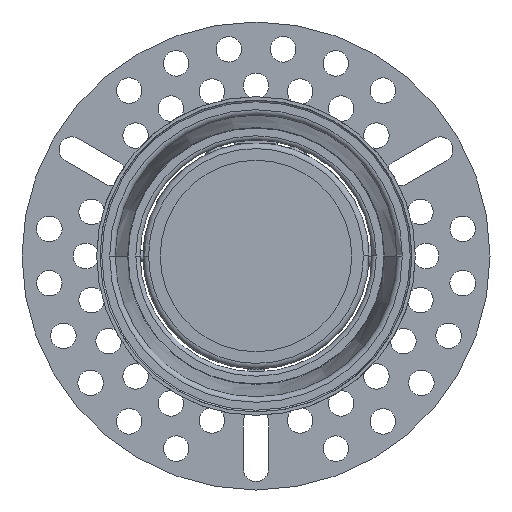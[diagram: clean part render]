
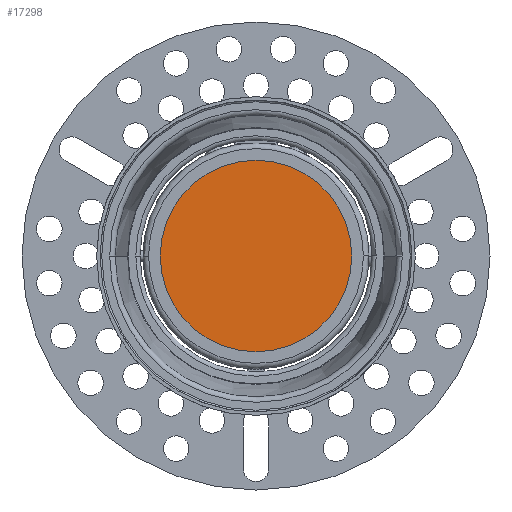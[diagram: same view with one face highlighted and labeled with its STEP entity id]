
A CAD part, front view. The second image highlights one B-rep face of the part: STEP entity #17298.
In plain terms, the highlighted planar face has unit normal (0, -1, 0).
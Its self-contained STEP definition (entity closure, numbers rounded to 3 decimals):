
#17251=CARTESIAN_POINT('',(0.,0.,0.));
#17252=DIRECTION('',(0.,1.,0.));
#17253=DIRECTION('',(1.,0.,0.));
#17254=AXIS2_PLACEMENT_3D('',#17251,#17252,#17253);
#17256=CARTESIAN_POINT('',(0.,0.,0.));
#17257=DIRECTION('',(0.,1.,0.));
#17258=DIRECTION('',(-1.,0.,0.));
#17259=AXIS2_PLACEMENT_3D('',#17256,#17257,#17258);
#17279=CARTESIAN_POINT('',(25.,0.,0.));
#17280=CARTESIAN_POINT('',(-25.,0.,0.));
#17281=VERTEX_POINT('',#17279);
#17282=VERTEX_POINT('',#17280);
#17287=CARTESIAN_POINT('',(0.,0.,0.));
#17288=DIRECTION('',(0.,1.,0.));
#17289=DIRECTION('',(1.,0.,0.));
#17290=AXIS2_PLACEMENT_3D('',#17287,#17288,#17289);
#17291=PLANE('',#17290);
#17293=ORIENTED_EDGE('',*,*,#17292,.T.);
#17295=ORIENTED_EDGE('',*,*,#17294,.T.);
#17296=EDGE_LOOP('',(#17293,#17295));
#17297=FACE_OUTER_BOUND('',#17296,.F.);
#17255=CIRCLE('',#17254,25.);
#17260=CIRCLE('',#17259,25.);
#17292=EDGE_CURVE('',#17281,#17282,#17255,.T.);
#17294=EDGE_CURVE('',#17282,#17281,#17260,.T.);
#17298=ADVANCED_FACE('',(#17297),#17291,.F.);
